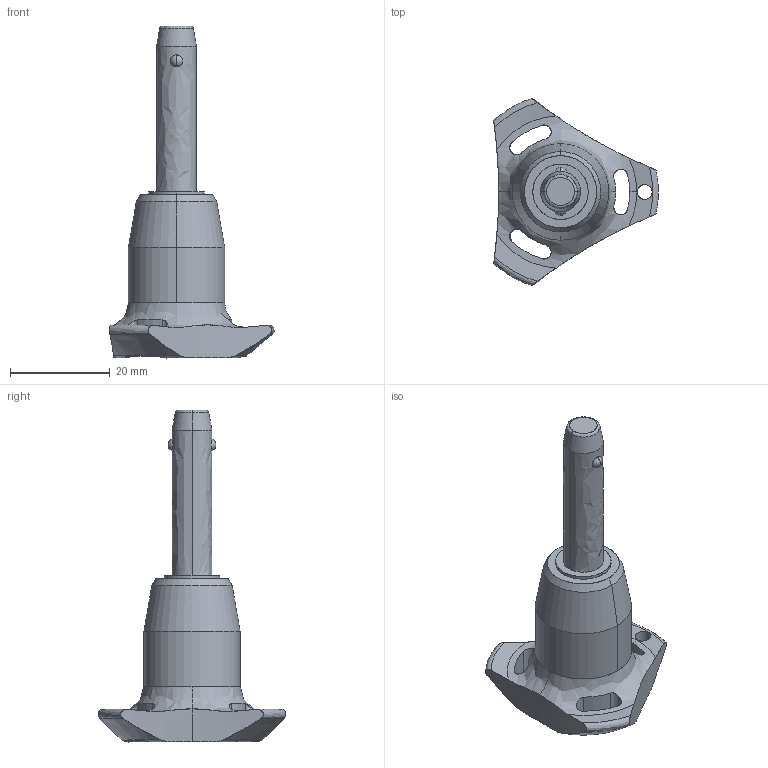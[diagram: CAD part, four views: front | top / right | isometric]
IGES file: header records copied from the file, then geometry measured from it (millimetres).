
Start section: SolidWorks IGES file using analytic representation for surfaces
Global section: file name: C:\Users\ianosborn\Desktop\QR1734_v2\QR1734_v2_20251113_IGES\QR1734.M08-025-S.igs; native system: SolidWorks 2019; preprocessor: SolidWorks 2019; author: IanOsborn; date: 251112.142024; units: millimetre
Bounding box: 33 x 37.51 x 66.5 mm (x, y, z)
Surface area: 4682.9 mm2 (no closed solid volume)
Topology: 0 solids, 0 shells, 65 faces, 1278 edges, 1274 vertices
Faces by surface type: revolution 50, bspline 15
